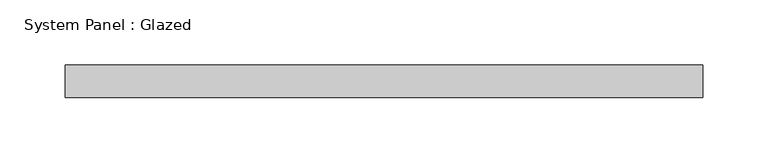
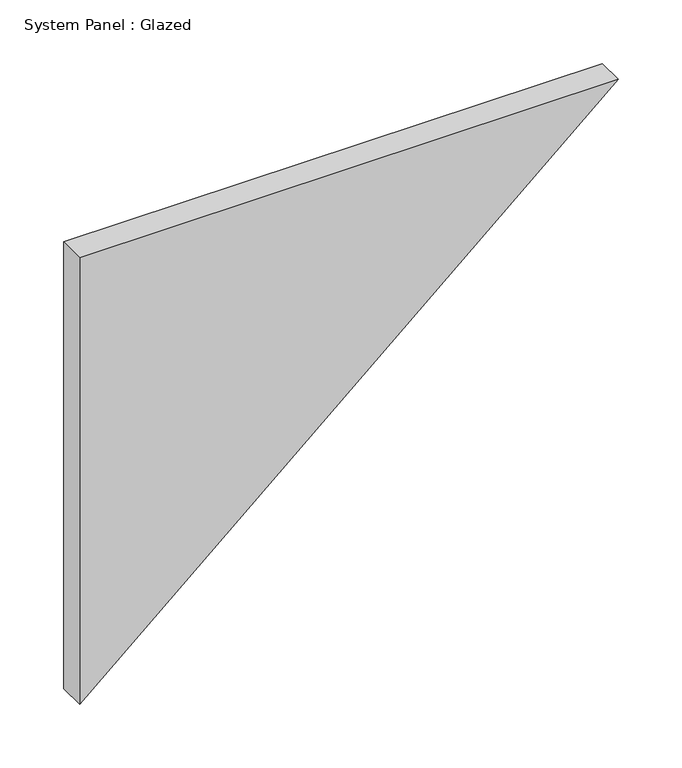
"""IFC4 building model written with IfcOpenShell, lengths in millimetres: plate geometry, System Panel : Glazed."""

import ifcopenshell
import ifcopenshell.guid

model = None  # the IFC model being written
_history = None  # IfcOwnerHistory: only IFC2X3 demands one
_inside = {}  # id of a spatial element -> (the spatial element, [elements in it])
_under = {}  # id of a project, library or spatial element -> (it, [spatial elements below it])
_declared = {}  # id of a project -> (the project, [libraries it declares])
_typed = {}  # id of a type object -> (the type object, [elements of that type])
_made_of = {}  # id of a material, layer set ... -> (it, [elements and type objects made of it])


def new_model(schema):
    """Start an empty IFC model of exactly this schema.

    Asked for "IFC4X3", IfcOpenShell would pick the latest addendum, in which some entities
    have other attributes; the version numbers below select the first issue.
    IFC2X3 requires an IfcOwnerHistory on every rooted entity: one is made here for all.
    """
    global model, _history
    if schema == "IFC4X3":
        model = ifcopenshell.file(schema_version=(4, 3, 0, 0))
    else:
        model = ifcopenshell.file(schema=schema)
    _inside.clear()
    _under.clear()
    _declared.clear()
    _typed.clear()
    _made_of.clear()
    _history = None
    if model.schema == "IFC2X3":
        org = make("IfcOrganization", Name="unknown")
        user = make(
            "IfcPersonAndOrganization",
            ThePerson=make("IfcPerson", FamilyName="unknown"),
            TheOrganization=org,
        )
        app = make(
            "IfcApplication",
            ApplicationDeveloper=org,
            Version="unknown",
            ApplicationFullName="unknown",
            ApplicationIdentifier="unknown",
        )
        _history = make(
            "IfcOwnerHistory",
            OwningUser=user,
            OwningApplication=app,
            ChangeAction="ADDED",
            CreationDate=0,
        )
    return model


def make(cls, **values):
    """One entity of the class cls with the attributes given. An attribute that is None is left unset."""
    return model.create_entity(
        cls, **{name: value for name, value in values.items() if value is not None}
    )


def rooted(cls, **values):
    """An entity with a GlobalId (a new one), such as an element, a storey or a relation."""
    return make(cls, GlobalId=ifcopenshell.guid.new(), OwnerHistory=_history, **values)


def si_unit(unit_type, name, prefix=None):
    """IfcSIUnit, for example si_unit("LENGTHUNIT", "METRE", prefix="MILLI")."""
    return make("IfcSIUnit", UnitType=unit_type, Prefix=prefix, Name=name)


def assignment(units):
    """IfcUnitAssignment: the units of a project."""
    return None if units is None else make("IfcUnitAssignment", Units=units)


def point(xyz):
    """IfcCartesianPoint."""
    return None if xyz is None else make("IfcCartesianPoint", Coordinates=xyz)


def direction(xyz):
    """IfcDirection."""
    return None if xyz is None else make("IfcDirection", DirectionRatios=xyz)


def frame(location, z_axis=None, x_axis=None):
    """IfcAxis2Placement3D, a coordinate frame: its origin and axes. An axis left out is left unset."""
    return make(
        "IfcAxis2Placement3D",
        Location=point(location),
        Axis=direction(z_axis),
        RefDirection=direction(x_axis),
    )


def origin():
    """The frame at (0, 0, 0) with its axes left unset."""
    return frame((0.0, 0.0, 0.0))


def place(relative_to, where):
    """IfcLocalPlacement: puts the frame where relative to a parent placement (None: the world)."""
    return make(
        "IfcLocalPlacement", PlacementRelTo=relative_to, RelativePlacement=where
    )


def context(
    kind, dimensions, precision=None, world=None, true_north=None, identifier=None
):
    """IfcGeometricRepresentationContext, for example the 3D "Model" context."""
    return make(
        "IfcGeometricRepresentationContext",
        ContextIdentifier=identifier,
        ContextType=kind,
        CoordinateSpaceDimension=dimensions,
        Precision=precision,
        WorldCoordinateSystem=world,
        TrueNorth=true_north,
    )


def project(units=None, contexts=None):
    """IfcProject with its units and contexts."""
    return rooted(
        "IfcProject",
        Name="project",
        RepresentationContexts=contexts,
        UnitsInContext=assignment(units),
    )


def spatial(cls, under=None, at=None, **own):
    """A site, building, storey or space (cls), placed at a placement, below another one or the project."""
    s = rooted(cls, ObjectPlacement=at, **own)
    if under is not None:
        _under.setdefault(under.id(), (under, []))[1].append(s)
    return s


def polyline(points):
    """IfcPolyline through the points."""
    return make("IfcPolyline", Points=[point(p) for p in points])


def outline(outer, holes=None, kind="AREA"):
    """IfcArbitraryClosedProfileDef: a profile drawn as a closed curve; with holes, ...WithVoids."""
    if holes is None:
        return make("IfcArbitraryClosedProfileDef", ProfileType=kind, OuterCurve=outer)
    return make(
        "IfcArbitraryProfileDefWithVoids",
        ProfileType=kind,
        OuterCurve=outer,
        InnerCurves=holes,
    )


def extrude(swept, where, along, depth):
    """IfcExtrudedAreaSolid: the profile swept, set in the frame where, extruded along a direction by depth."""
    return make(
        "IfcExtrudedAreaSolid",
        SweptArea=swept,
        Position=where,
        ExtrudedDirection=direction(along),
        Depth=depth,
    )


def shape(context_of_items, identifier, shape_type, items):
    """IfcShapeRepresentation: the items that make up one representation, for example the "Body"."""
    return make(
        "IfcShapeRepresentation",
        ContextOfItems=context_of_items,
        RepresentationIdentifier=identifier,
        RepresentationType=shape_type,
        Items=items,
    )


def source(mapping_origin, context_of_items, identifier, shape_type, items):
    """IfcRepresentationMap: a shape defined once, which mapped items show again and again."""
    return make(
        "IfcRepresentationMap",
        MappingOrigin=mapping_origin,
        MappedRepresentation=shape(context_of_items, identifier, shape_type, items),
    )


def transform(
    local_origin,
    x_axis=None,
    y_axis=None,
    z_axis=None,
    scale=None,
    scale2=None,
    scale3=None,
    uniform=True,
):
    """IfcCartesianTransformationOperator3D, or its non-uniform kind. x_axis, y_axis, z_axis: its Axis1, 2, 3."""
    if uniform:
        return make(
            "IfcCartesianTransformationOperator3D",
            Axis1=direction(x_axis),
            Axis2=direction(y_axis),
            LocalOrigin=point(local_origin),
            Scale=scale,
            Axis3=direction(z_axis),
        )
    return make(
        "IfcCartesianTransformationOperator3DnonUniform",
        Axis1=direction(x_axis),
        Axis2=direction(y_axis),
        LocalOrigin=point(local_origin),
        Scale=scale,
        Axis3=direction(z_axis),
        Scale2=scale2,
        Scale3=scale3,
    )


def mapped(mapping_source, mapping_target):
    """IfcMappedItem: shows the shape of a source again, moved by a transform."""
    return make(
        "IfcMappedItem", MappingSource=mapping_source, MappingTarget=mapping_target
    )


def made_of(thing, what):
    """Note that an element or type object is made of a material, layer set ...; save() writes the relation."""
    if what is not None:
        _made_of.setdefault(what.id(), (what, []))[1].append(thing)
    return thing


def element(
    cls,
    number,
    at=None,
    inside=None,
    cuts=None,
    type_object=None,
    material=None,
    context=None,
    identifier="Body",
    shape_type=None,
    held_by="IfcProductDefinitionShape",
    body=None,
    shapes=None,
    **own,
):
    """One element of the class cls, such as IfcWall. Its Tag is "e" and its number.

    at: its placement. inside: the storey or other place that contains it. cuts: it is an
    opening in that element (IfcRelVoidsElement). A single representation is given by context,
    identifier, shape_type and body (its items); several are given by shapes. held_by: the class
    of the entity that holds the representations. save() writes the other relations.
    """
    e = rooted(cls, Tag="e%d" % number, ObjectPlacement=at, **own)
    if body is not None:
        shapes = [shape(context, identifier, shape_type, body)]
    if shapes is not None:
        e.Representation = make(held_by, Representations=shapes)
    if inside is not None:
        _inside.setdefault(inside.id(), (inside, []))[1].append(e)
    if cuts is not None:
        rooted(
            "IfcRelVoidsElement", RelatingBuildingElement=cuts, RelatedOpeningElement=e
        )
    if type_object is not None:
        _typed.setdefault(type_object.id(), (type_object, []))[1].append(e)
    return made_of(e, material)


def aggregate(whole, parts):
    """IfcRelAggregates: a whole, such as a stair, and the parts it consists of."""
    return rooted("IfcRelAggregates", RelatingObject=whole, RelatedObjects=parts)


def save(model, path):
    """Write the relations noted so far, then the file.

    IfcRelAggregates (storeys below a building ...), IfcRelContainedInSpatialStructure (elements
    in a storey), IfcRelDefinesByType, IfcRelAssociatesMaterial and IfcRelDeclares: one each for
    every whole, place, type object, material and project.
    """
    for whole, parts in _under.values():
        aggregate(whole, parts)
    for where, things in _inside.values():
        rooted(
            "IfcRelContainedInSpatialStructure",
            RelatedElements=things,
            RelatingStructure=where,
        )
    for kind, things in _typed.values():
        rooted("IfcRelDefinesByType", RelatedObjects=things, RelatingType=kind)
    for what, things in _made_of.values():
        rooted("IfcRelAssociatesMaterial", RelatedObjects=things, RelatingMaterial=what)
    for by, libraries in _declared.values():
        rooted("IfcRelDeclares", RelatingContext=by, RelatedDefinitions=libraries)
    model.write(path)


def system_panel_glazed_acbae97a(model_context):
    return source(origin(), model_context, "Body", "SweptSolid", [
        extrude(outline(polyline([(428.5444126, -244.3916856), (0.0, -244.3916856), (428.5444126, 244.3916856), (428.5444126, -244.3916856)])), frame((0.0, 24.5, 0.0), z_axis=(0.0, 1.0, 0.0), x_axis=(0.0, 0.0, 1.0)), (0.0, 0.0, 1.0), 25.0),
    ])


if __name__ == "__main__":
    model = new_model("IFC4")
    model_context = context("Model", 3, world=origin())
    ifc_project = project(units=[si_unit("LENGTHUNIT", "METRE", prefix="MILLI")], contexts=[model_context])
    site = spatial("IfcSite", under=ifc_project)
    building = spatial("IfcBuilding", under=site)
    placement = place(None, origin())
    system_panel_glazed_shape = system_panel_glazed_acbae97a(model_context)
    element("IfcPlate", 1, ObjectType="System Panel : Glazed", at=placement, inside=building, context=model_context, shape_type="MappedRepresentation", body=[
        mapped(system_panel_glazed_shape, transform((0.0, 0.0, 0.0), x_axis=(1.0, 0.0, 0.0), y_axis=(0.0, 1.0, 0.0), z_axis=(0.0, 0.0, 1.0))),
    ])
    save(model, "model.ifc")
